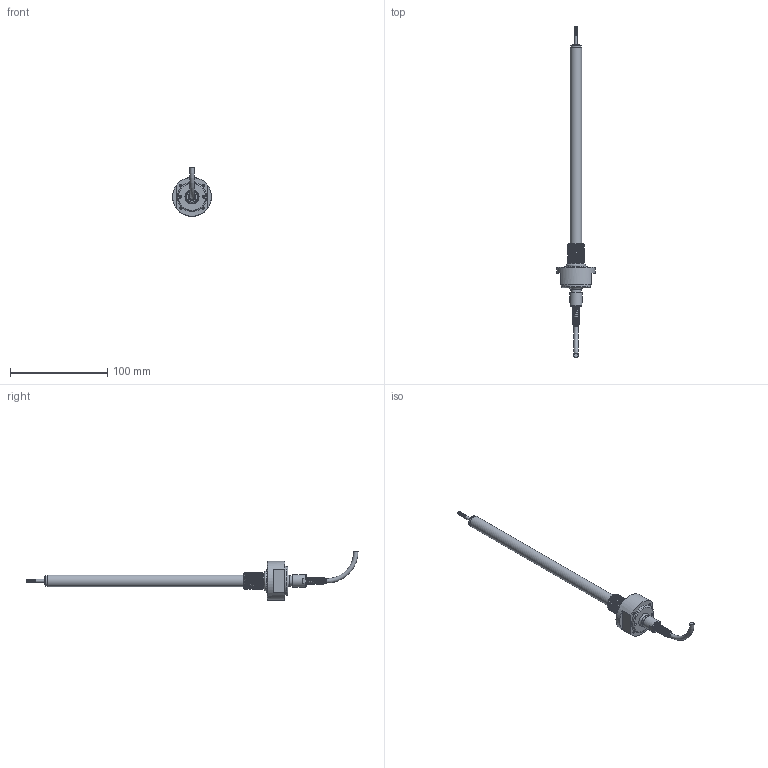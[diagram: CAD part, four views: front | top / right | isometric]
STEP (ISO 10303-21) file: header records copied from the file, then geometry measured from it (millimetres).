
FILE_DESCRIPTION( ( 'STEP AP214' ), '1' );
FILE_NAME( 'N:/Engineering/CAD_Solid/LVDT/HYD/Kunden-3D-Modell/SM120-HYD-18-K.stp', '2011-12-14T13:51:22', ( ' ' ), ( ' ' ), 'XStep 1.0', ' ', ' ' );
FILE_SCHEMA( ( 'CONFIG_CONTROL_DESIGN) ( )' ) );
Length unit declared in the file: metre
Products named in the file (12): 1; 2; 3; 4; 5; 6; 7; 8; 9; 10; 11; 12
Bounding box: 40 x 341.25 x 50 mm (x, y, z)
Volume: 1245.2 mm3; surface area: 20641.7 mm2
Topology: 2 solids, 74 shells, 78 faces, 285 edges, 236 vertices
Faces by surface type: plane 24, cylinder 22, cone 16, bspline 11, torus 5
Full cylindrical faces by diameter (mm): 2.5 x5, 2.6 x2, 3 x1, 4 x1, 4.5 x1, 6 x1, 8 x1, 10.6 x1, 11 x1, 12 x1, 13 x1, 15.8 x1, 24 x1, 30 x1, 40 x1
Entity records: 17548 total; most frequent: CARTESIAN_POINT 14842, DIRECTION 446, ORIENTED_EDGE 212, AXIS2_PLACEMENT_3D 209, EDGE_CURVE 209, VERTEX_POINT 209, CIRCLE 131, EDGE_LOOP 130
